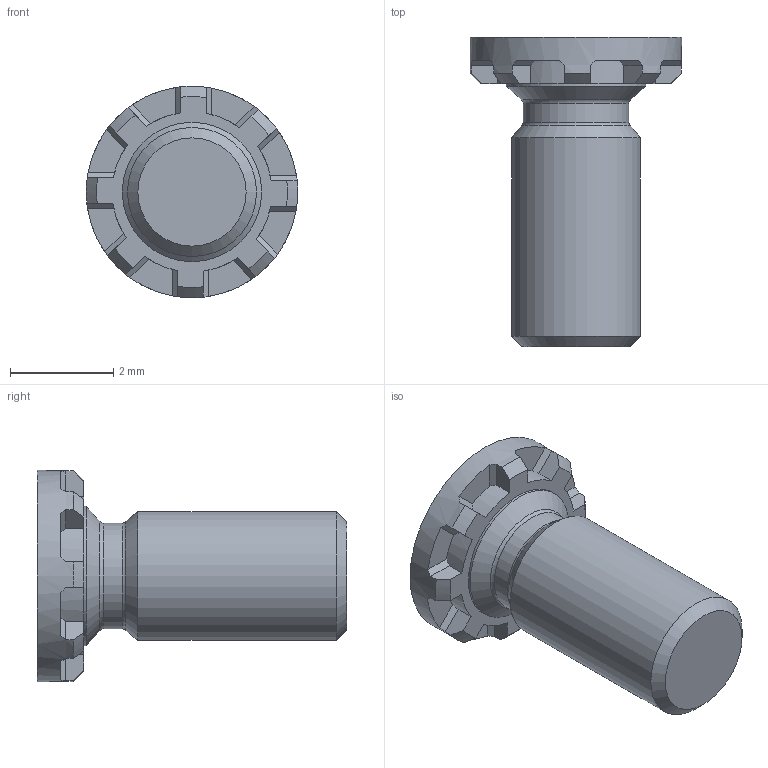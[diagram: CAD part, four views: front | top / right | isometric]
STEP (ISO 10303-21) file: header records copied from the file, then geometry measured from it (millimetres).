
FILE_DESCRIPTION(/* description */ (''),/* implementation_level */ '2;1');
FILE_NAME(/* name */ 'C:\Users\keval.kumar\Desktop\Fastit\Clinch Screw- FH Range\M2.5\Clinch Screw-FH Range_M2.5x6.stp',/* time_stamp */ '2024-03-12T11:45:21+05:00',/* author */ ('keval.kumar'),/* organization */ (''),/* preprocessor_version */ 'ST-DEVELOPER v18.1',/* originating_system */ 'Autodesk Inventor 2022',/* authorisation */ '');
FILE_SCHEMA (('AUTOMOTIVE_DESIGN { 1 0 10303 214 3 1 1 }'));
Length unit declared in the file: millimetre
Products named in the file (1): M2.5x6_Clinch Screw-FH Range
Bounding box: 4.1 x 6 x 4.1 mm (x, y, z)
Volume: 34.1 mm3; surface area: 77.9 mm2
Topology: 1 solids, 1 shells, 68 faces, 193 edges, 128 vertices
Faces by surface type: plane 43, cylinder 12, cone 11, torus 2
Full cylindrical faces by diameter (mm): 2.05 x1, 2.5 x1, 2.7 x1, 4.1 x1
Entity records: 2278 total; most frequent: CARTESIAN_POINT 422, DIRECTION 405, ORIENTED_EDGE 386, EDGE_CURVE 193, AXIS2_PLACEMENT_3D 159, VERTEX_POINT 128, LINE 87, VECTOR 87
